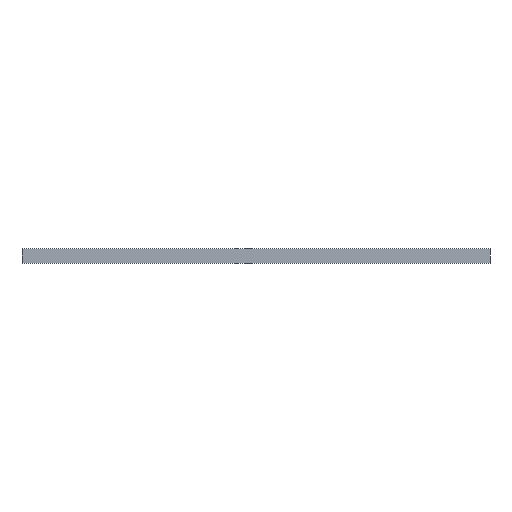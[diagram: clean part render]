
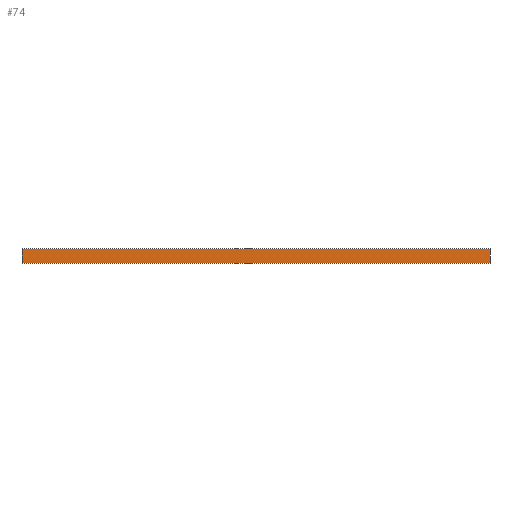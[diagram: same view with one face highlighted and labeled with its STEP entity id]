
A CAD part, front view. The second image highlights one B-rep face of the part: STEP entity #74.
In plain terms, the highlighted planar face has unit normal (0, -1, 0).
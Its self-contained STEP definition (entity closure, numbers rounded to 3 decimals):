
#74=ADVANCED_FACE('',(#98),#706,.T.);
#98=FACE_OUTER_BOUND('',#122,.T.);
#122=EDGE_LOOP('',(#197,#198,#199,#200));
#197=ORIENTED_EDGE('',*,*,#500,.F.);
#198=ORIENTED_EDGE('',*,*,#496,.F.);
#199=ORIENTED_EDGE('',*,*,#493,.F.);
#200=ORIENTED_EDGE('',*,*,#492,.F.);
#276=PCURVE('',#701,#372);
#278=PCURVE('',#702,#374);
#281=PCURVE('',#703,#377);
#292=PCURVE('',#705,#388);
#293=PCURVE('',#706,#389);
#294=PCURVE('',#706,#390);
#295=PCURVE('',#706,#391);
#296=PCURVE('',#706,#392);
#372=DEFINITIONAL_REPRESENTATION('',(#592),#1132);
#374=DEFINITIONAL_REPRESENTATION('',(#595),#1132);
#377=DEFINITIONAL_REPRESENTATION('',(#601),#1132);
#388=DEFINITIONAL_REPRESENTATION('',(#616),#1132);
#389=DEFINITIONAL_REPRESENTATION('',(#617),#1132);
#390=DEFINITIONAL_REPRESENTATION('',(#618),#1132);
#391=DEFINITIONAL_REPRESENTATION('',(#619),#1132);
#392=DEFINITIONAL_REPRESENTATION('',(#620),#1132);
#444=SURFACE_CURVE('',#591,(#276,#296),.PCURVE_S1.);
#445=SURFACE_CURVE('',#594,(#278,#295),.PCURVE_S1.);
#448=SURFACE_CURVE('',#600,(#281,#294),.PCURVE_S1.);
#452=SURFACE_CURVE('',#615,(#292,#293),.PCURVE_S1.);
#492=EDGE_CURVE('',#677,#673,#444,.T.);
#493=EDGE_CURVE('',#673,#674,#445,.T.);
#496=EDGE_CURVE('',#674,#680,#448,.T.);
#500=EDGE_CURVE('',#680,#677,#452,.T.);
#591=B_SPLINE_CURVE_WITH_KNOTS('',1,(#985,#986),.UNSPECIFIED.,.F.,.F.,(2,
2),(-1310.,0.),.UNSPECIFIED.);
#592=B_SPLINE_CURVE_WITH_KNOTS('',1,(#987,#988),.UNSPECIFIED.,.F.,.F.,(2,
2),(-1310.,0.),.UNSPECIFIED.);
#594=B_SPLINE_CURVE_WITH_KNOTS('',1,(#991,#992),.UNSPECIFIED.,.F.,.F.,(2,
2),(0.,20.),.UNSPECIFIED.);
#595=B_SPLINE_CURVE_WITH_KNOTS('',1,(#993,#994),.UNSPECIFIED.,.F.,.F.,(2,
2),(0.,20.),.UNSPECIFIED.);
#600=B_SPLINE_CURVE_WITH_KNOTS('',1,(#1003,#1004),.UNSPECIFIED.,.F.,.F.,
(2,2),(0.,1310.),.UNSPECIFIED.);
#601=B_SPLINE_CURVE_WITH_KNOTS('',1,(#1005,#1006),.UNSPECIFIED.,.F.,.F.,
(2,2),(0.,1310.),.UNSPECIFIED.);
#615=B_SPLINE_CURVE_WITH_KNOTS('',1,(#1033,#1034),.UNSPECIFIED.,.F.,.F.,
(2,2),(-20.,0.),.UNSPECIFIED.);
#616=B_SPLINE_CURVE_WITH_KNOTS('',1,(#1035,#1036),.UNSPECIFIED.,.F.,.F.,
(2,2),(-20.,0.),.UNSPECIFIED.);
#617=B_SPLINE_CURVE_WITH_KNOTS('',1,(#1037,#1038),.UNSPECIFIED.,.F.,.F.,
(2,2),(-20.,0.),.UNSPECIFIED.);
#618=B_SPLINE_CURVE_WITH_KNOTS('',1,(#1039,#1040),.UNSPECIFIED.,.F.,.F.,
(2,2),(0.,1310.),.UNSPECIFIED.);
#619=B_SPLINE_CURVE_WITH_KNOTS('',1,(#1041,#1042),.UNSPECIFIED.,.F.,.F.,
(2,2),(0.,20.),.UNSPECIFIED.);
#620=B_SPLINE_CURVE_WITH_KNOTS('',1,(#1043,#1044),.UNSPECIFIED.,.F.,.F.,
(2,2),(-1310.,0.),.UNSPECIFIED.);
#673=VERTEX_POINT('',#965);
#674=VERTEX_POINT('',#966);
#677=VERTEX_POINT('',#969);
#680=VERTEX_POINT('',#972);
#701=PLANE('',#745);
#702=PLANE('',#746);
#703=PLANE('',#747);
#705=PLANE('',#749);
#706=PLANE('',#750);
#745=AXIS2_PLACEMENT_3D('',#959,#772,$);
#746=AXIS2_PLACEMENT_3D('',#960,#773,$);
#747=AXIS2_PLACEMENT_3D('',#961,#774,$);
#749=AXIS2_PLACEMENT_3D('',#963,#776,$);
#750=AXIS2_PLACEMENT_3D('',#964,#777,$);
#772=DIRECTION('',(0.,0.,-1.));
#773=DIRECTION('',(-1.,0.,0.));
#774=DIRECTION('',(0.,0.,1.));
#776=DIRECTION('',(1.,0.,0.));
#777=DIRECTION('',(0.,-1.,0.));
#959=CARTESIAN_POINT('',(-630.,-490.,-136.));
#960=CARTESIAN_POINT('',(-630.,-490.,-136.));
#961=CARTESIAN_POINT('',(-630.,-490.,-96.));
#963=CARTESIAN_POINT('',(630.,-470.,-136.));
#964=CARTESIAN_POINT('',(630.,-490.,-136.));
#965=CARTESIAN_POINT('',(-630.,-490.,-136.));
#966=CARTESIAN_POINT('',(-630.,-490.,-96.));
#969=CARTESIAN_POINT('',(630.,-490.,-136.));
#972=CARTESIAN_POINT('',(630.,-490.,-96.));
#985=CARTESIAN_POINT('',(630.,-490.,-136.));
#986=CARTESIAN_POINT('',(-630.,-490.,-136.));
#987=CARTESIAN_POINT('',(0.,1310.));
#988=CARTESIAN_POINT('',(0.,0.));
#991=CARTESIAN_POINT('',(-630.,-490.,-136.));
#992=CARTESIAN_POINT('',(-630.,-490.,-96.));
#993=CARTESIAN_POINT('',(0.,-2660.));
#994=CARTESIAN_POINT('',(20.,-2660.));
#1003=CARTESIAN_POINT('',(-630.,-490.,-96.));
#1004=CARTESIAN_POINT('',(630.,-490.,-96.));
#1005=CARTESIAN_POINT('',(0.,0.));
#1006=CARTESIAN_POINT('',(1310.,0.));
#1033=CARTESIAN_POINT('',(630.,-490.,-96.));
#1034=CARTESIAN_POINT('',(630.,-490.,-136.));
#1035=CARTESIAN_POINT('',(20.,-1310.));
#1036=CARTESIAN_POINT('',(0.,-1310.));
#1037=CARTESIAN_POINT('',(20.,-1310.));
#1038=CARTESIAN_POINT('',(0.,-1310.));
#1039=CARTESIAN_POINT('',(20.,0.));
#1040=CARTESIAN_POINT('',(20.,-1310.));
#1041=CARTESIAN_POINT('',(0.,0.));
#1042=CARTESIAN_POINT('',(20.,0.));
#1043=CARTESIAN_POINT('',(0.,-1310.));
#1044=CARTESIAN_POINT('',(0.,0.));
#1132=(
GEOMETRIC_REPRESENTATION_CONTEXT(2)
PARAMETRIC_REPRESENTATION_CONTEXT()
REPRESENTATION_CONTEXT('pspace','')
);
